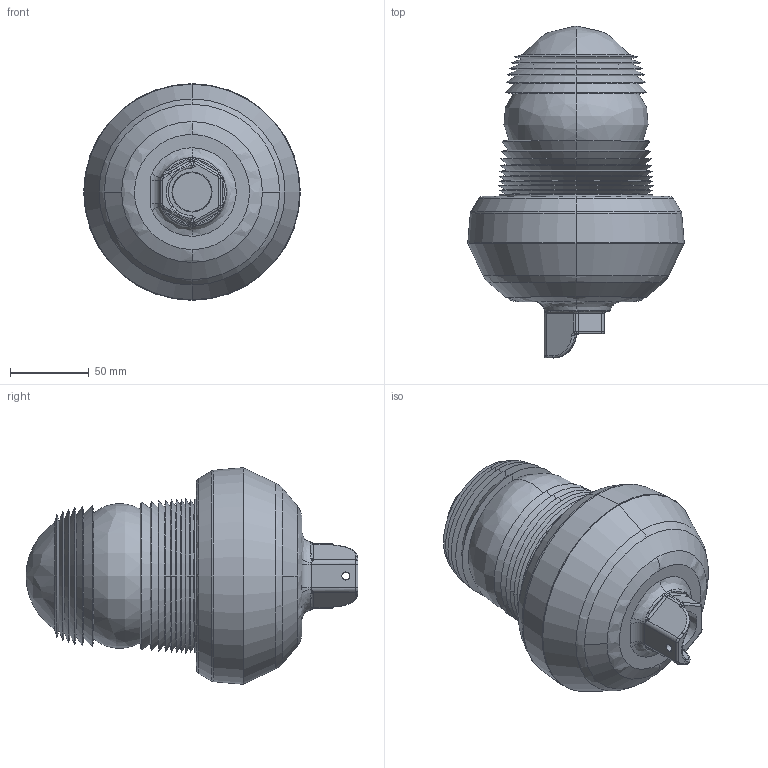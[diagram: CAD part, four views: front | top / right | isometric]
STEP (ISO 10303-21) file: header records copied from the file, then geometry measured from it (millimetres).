
FILE_DESCRIPTION (( 'STEP AP214' ), '1' );
FILE_NAME ('4375 Strobe Version.STEP', '2014-10-03T14:57:29', ( 'sikora' ), ( '' ), 'SwSTEP 2.0', 'SolidWorks 2014', '' );
FILE_SCHEMA (( 'AUTOMOTIVE_DESIGN' ));
Length unit declared in the file: inch
Products named in the file (1): 4375 Strobe Version
Bounding box: 137.1 x 210.12 x 137.1 mm (x, y, z)
Surface area: 101625.9 mm2 (no closed solid volume)
Topology: 0 solids, 3 shells, 189 faces, 427 edges, 239 vertices
Faces by surface type: cone 76, bspline 67, cylinder 29, plane 17
Entity records: 17560 total; most frequent: CARTESIAN_POINT 12793, ORIENTED_EDGE 841, DIRECTION 785, EDGE_CURVE 421, AXIS2_PLACEMENT_3D 332, VERTEX_POINT 239, CIRCLE 209, EDGE_LOOP 195
